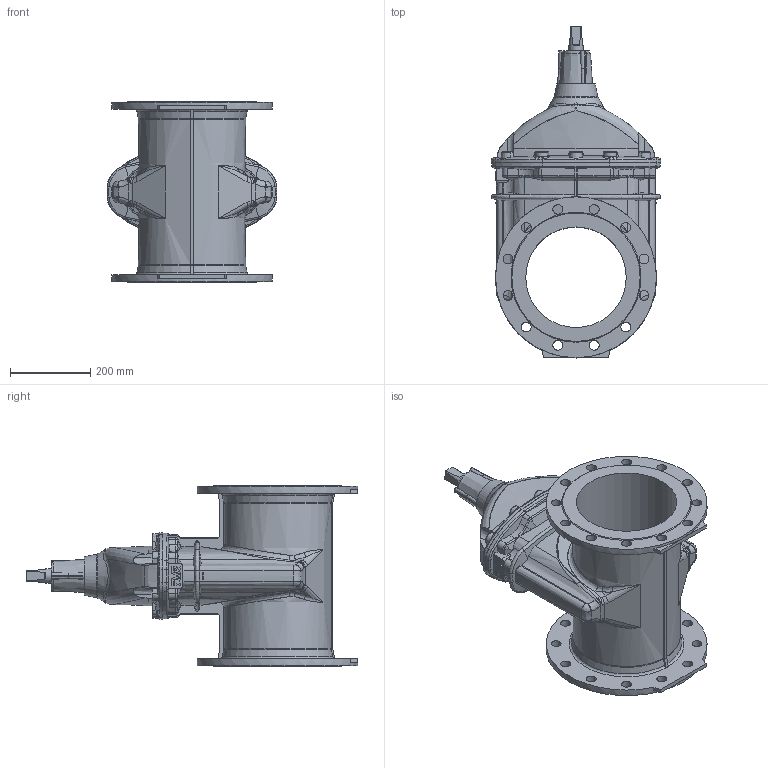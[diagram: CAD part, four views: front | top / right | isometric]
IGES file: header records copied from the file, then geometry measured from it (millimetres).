
Start section: SolidWorks IGES file using analytic representation for surfaces
Global section: file name: \\avksan2\techshare\PBM outline export from Enovia\O_02_60_DN250_XXXXXXX9_PN10_REV01.igs; native system: SolidWorks 2019; preprocessor: SolidWorks 2019; author: pbm; date: 210216.123708; units: millimetre
Bounding box: 422 x 825.1 x 450 mm (x, y, z)
Surface area: 1487751.4 mm2 (no closed solid volume)
Topology: 0 solids, 0 shells, 727 faces, 4104 edges, 4037 vertices
Faces by surface type: revolution 380, bspline 347
